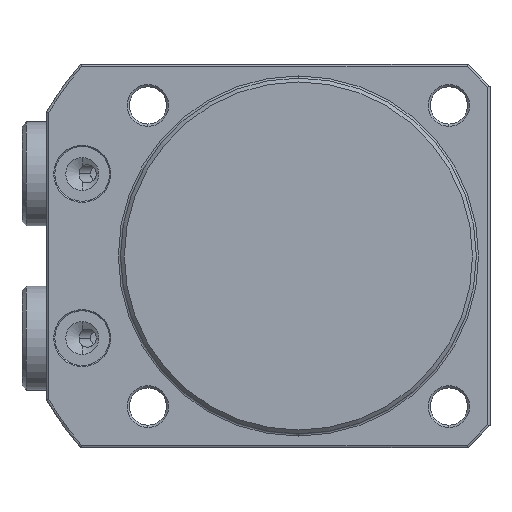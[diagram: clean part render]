
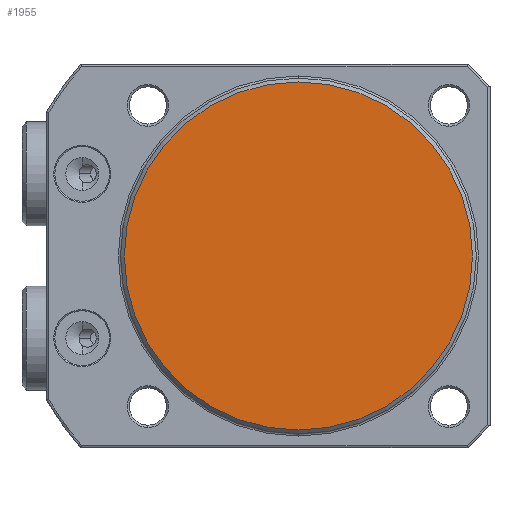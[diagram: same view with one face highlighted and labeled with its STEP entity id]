
A CAD part, front view. The second image highlights one B-rep face of the part: STEP entity #1955.
In plain terms, the highlighted planar face has unit normal (0, -1, 0) as drawn and (-1, 0, 0) by its records, which use the part's own axes.
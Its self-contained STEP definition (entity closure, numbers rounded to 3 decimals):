
#1730=PLANE('',#7441);
#1955=ADVANCED_FACE('',(#2429),#1730,.F.);
#2429=FACE_OUTER_BOUND('',#2785,.T.);
#2785=EDGE_LOOP('',(#4455));
#4455=ORIENTED_EDGE('',*,*,#6232,.T.);
#5567=VERTEX_POINT('',#10412);
#6232=EDGE_CURVE('',#5567,#5567,#6883,.T.);
#6883=CIRCLE('',#7440,31.8);
#7440=AXIS2_PLACEMENT_3D('',#10411,#8739,#8740);
#7441=AXIS2_PLACEMENT_3D('',#10413,#8741,#8742);
#8739=DIRECTION('',(-1.,0.,0.));
#8740=DIRECTION('',(0.,0.,-1.));
#8741=DIRECTION('',(1.,0.,0.));
#8742=DIRECTION('',(0.,0.,1.));
#10411=CARTESIAN_POINT('',(0.,0.,0.));
#10412=CARTESIAN_POINT('',(0.,0.,-31.8));
#10413=CARTESIAN_POINT('',(0.,0.,0.));
